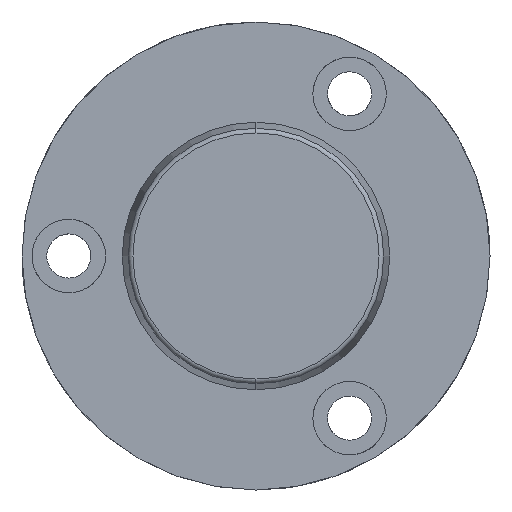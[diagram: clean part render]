
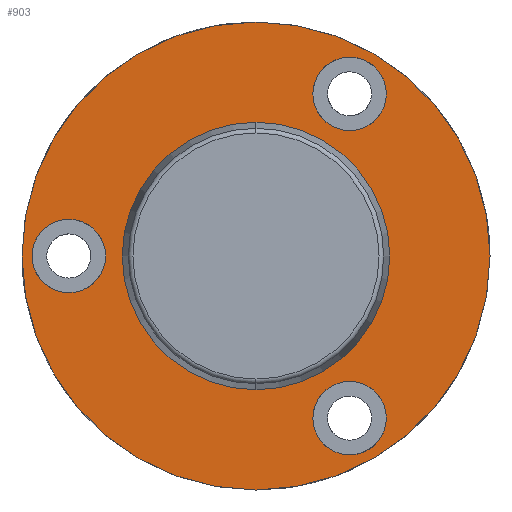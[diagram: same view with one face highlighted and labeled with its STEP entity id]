
A CAD part, left-side view. The second image highlights one B-rep face of the part: STEP entity #903.
In plain terms, the highlighted planar face has unit normal (-1, 0, 0).
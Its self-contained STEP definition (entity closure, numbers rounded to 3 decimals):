
#417=CARTESIAN_POINT('Vertex',(-12.,0.,-35.)) ;
#420=CARTESIAN_POINT('Axis2P3D Location',(-12.,0.,0.)) ;
#424=CARTESIAN_POINT('Vertex',(-12.,35.,0.)) ;
#427=CARTESIAN_POINT('Axis2P3D Location',(-12.,0.,0.)) ;
#431=CARTESIAN_POINT('Vertex',(-12.,0.,35.)) ;
#453=CARTESIAN_POINT('Axis2P3D Location',(-12.,0.,0.)) ;
#457=CARTESIAN_POINT('Vertex',(-12.,-35.,0.)) ;
#460=CARTESIAN_POINT('Axis2P3D Location',(-12.,0.,0.)) ;
#756=CARTESIAN_POINT('Axis2P3D Location',(-12.,18.5,0.)) ;
#767=CARTESIAN_POINT('Axis2P3D Location',(-12.,28.,0.)) ;
#771=CARTESIAN_POINT('Vertex',(-12.,28.,5.5)) ;
#773=CARTESIAN_POINT('Vertex',(-12.,33.5,0.)) ;
#776=CARTESIAN_POINT('Axis2P3D Location',(-12.,28.,0.)) ;
#780=CARTESIAN_POINT('Vertex',(-12.,22.5,0.)) ;
#783=CARTESIAN_POINT('Axis2P3D Location',(-12.,28.,0.)) ;
#787=CARTESIAN_POINT('Vertex',(-12.,28.,-5.5)) ;
#790=CARTESIAN_POINT('Axis2P3D Location',(-12.,28.,0.)) ;
#801=CARTESIAN_POINT('Axis2P3D Location',(-12.,-14.,24.249)) ;
#805=CARTESIAN_POINT('Vertex',(-12.,-8.5,24.249)) ;
#807=CARTESIAN_POINT('Vertex',(-12.,-14.,29.749)) ;
#810=CARTESIAN_POINT('Axis2P3D Location',(-12.,-14.,24.249)) ;
#814=CARTESIAN_POINT('Vertex',(-12.,-19.5,24.249)) ;
#817=CARTESIAN_POINT('Axis2P3D Location',(-12.,-14.,24.249)) ;
#821=CARTESIAN_POINT('Vertex',(-12.,-14.,18.749)) ;
#824=CARTESIAN_POINT('Axis2P3D Location',(-12.,-14.,24.249)) ;
#835=CARTESIAN_POINT('Axis2P3D Location',(-12.,-14.,-24.249)) ;
#839=CARTESIAN_POINT('Vertex',(-12.,-8.5,-24.249)) ;
#841=CARTESIAN_POINT('Vertex',(-12.,-14.,-18.749)) ;
#844=CARTESIAN_POINT('Axis2P3D Location',(-12.,-14.,-24.249)) ;
#848=CARTESIAN_POINT('Vertex',(-12.,-19.5,-24.249)) ;
#851=CARTESIAN_POINT('Axis2P3D Location',(-12.,-14.,-24.249)) ;
#855=CARTESIAN_POINT('Vertex',(-12.,-14.,-29.749)) ;
#858=CARTESIAN_POINT('Axis2P3D Location',(-12.,-14.,-24.249)) ;
#869=CARTESIAN_POINT('Axis2P3D Location',(-12.,0.,0.)) ;
#873=CARTESIAN_POINT('Vertex',(-12.,18.5,0.)) ;
#875=CARTESIAN_POINT('Vertex',(-12.,0.,18.5)) ;
#878=CARTESIAN_POINT('Axis2P3D Location',(-12.,0.,0.)) ;
#882=CARTESIAN_POINT('Vertex',(-12.,-18.5,0.)) ;
#885=CARTESIAN_POINT('Axis2P3D Location',(-12.,0.,0.)) ;
#889=CARTESIAN_POINT('Vertex',(-12.,0.,-18.5)) ;
#892=CARTESIAN_POINT('Axis2P3D Location',(-12.,0.,0.)) ;
#421=DIRECTION('Axis2P3D Direction',(-1.,-0.,-0.)) ;
#428=DIRECTION('Axis2P3D Direction',(-1.,-0.,-0.)) ;
#454=DIRECTION('Axis2P3D Direction',(-1.,-0.,-0.)) ;
#461=DIRECTION('Axis2P3D Direction',(-1.,-0.,-0.)) ;
#757=DIRECTION('Axis2P3D Direction',(1.,0.,-0.)) ;
#758=DIRECTION('Axis2P3D XDirection',(-0.,0.,-1.)) ;
#768=DIRECTION('Axis2P3D Direction',(1.,0.,-0.)) ;
#777=DIRECTION('Axis2P3D Direction',(1.,0.,-0.)) ;
#784=DIRECTION('Axis2P3D Direction',(1.,0.,-0.)) ;
#791=DIRECTION('Axis2P3D Direction',(1.,0.,-0.)) ;
#802=DIRECTION('Axis2P3D Direction',(1.,0.,-0.)) ;
#811=DIRECTION('Axis2P3D Direction',(1.,0.,-0.)) ;
#818=DIRECTION('Axis2P3D Direction',(1.,0.,-0.)) ;
#825=DIRECTION('Axis2P3D Direction',(1.,0.,-0.)) ;
#836=DIRECTION('Axis2P3D Direction',(1.,0.,-0.)) ;
#845=DIRECTION('Axis2P3D Direction',(1.,0.,-0.)) ;
#852=DIRECTION('Axis2P3D Direction',(1.,0.,-0.)) ;
#859=DIRECTION('Axis2P3D Direction',(1.,0.,-0.)) ;
#870=DIRECTION('Axis2P3D Direction',(1.,0.,-0.)) ;
#879=DIRECTION('Axis2P3D Direction',(1.,0.,-0.)) ;
#886=DIRECTION('Axis2P3D Direction',(1.,0.,-0.)) ;
#893=DIRECTION('Axis2P3D Direction',(1.,0.,-0.)) ;
#422=AXIS2_PLACEMENT_3D('Circle Axis2P3D',#420,#421,$) ;
#429=AXIS2_PLACEMENT_3D('Circle Axis2P3D',#427,#428,$) ;
#455=AXIS2_PLACEMENT_3D('Circle Axis2P3D',#453,#454,$) ;
#462=AXIS2_PLACEMENT_3D('Circle Axis2P3D',#460,#461,$) ;
#759=AXIS2_PLACEMENT_3D('Plane Axis2P3D',#756,#757,#758) ;
#769=AXIS2_PLACEMENT_3D('Circle Axis2P3D',#767,#768,$) ;
#778=AXIS2_PLACEMENT_3D('Circle Axis2P3D',#776,#777,$) ;
#785=AXIS2_PLACEMENT_3D('Circle Axis2P3D',#783,#784,$) ;
#792=AXIS2_PLACEMENT_3D('Circle Axis2P3D',#790,#791,$) ;
#803=AXIS2_PLACEMENT_3D('Circle Axis2P3D',#801,#802,$) ;
#812=AXIS2_PLACEMENT_3D('Circle Axis2P3D',#810,#811,$) ;
#819=AXIS2_PLACEMENT_3D('Circle Axis2P3D',#817,#818,$) ;
#826=AXIS2_PLACEMENT_3D('Circle Axis2P3D',#824,#825,$) ;
#837=AXIS2_PLACEMENT_3D('Circle Axis2P3D',#835,#836,$) ;
#846=AXIS2_PLACEMENT_3D('Circle Axis2P3D',#844,#845,$) ;
#853=AXIS2_PLACEMENT_3D('Circle Axis2P3D',#851,#852,$) ;
#860=AXIS2_PLACEMENT_3D('Circle Axis2P3D',#858,#859,$) ;
#871=AXIS2_PLACEMENT_3D('Circle Axis2P3D',#869,#870,$) ;
#880=AXIS2_PLACEMENT_3D('Circle Axis2P3D',#878,#879,$) ;
#887=AXIS2_PLACEMENT_3D('Circle Axis2P3D',#885,#886,$) ;
#894=AXIS2_PLACEMENT_3D('Circle Axis2P3D',#892,#893,$) ;
#762=ORIENTED_EDGE('',*,*,#426,.F.) ;
#763=ORIENTED_EDGE('',*,*,#464,.F.) ;
#764=ORIENTED_EDGE('',*,*,#459,.F.) ;
#765=ORIENTED_EDGE('',*,*,#433,.F.) ;
#796=ORIENTED_EDGE('',*,*,#775,.F.) ;
#797=ORIENTED_EDGE('',*,*,#782,.F.) ;
#798=ORIENTED_EDGE('',*,*,#789,.F.) ;
#799=ORIENTED_EDGE('',*,*,#794,.F.) ;
#830=ORIENTED_EDGE('',*,*,#809,.T.) ;
#831=ORIENTED_EDGE('',*,*,#816,.T.) ;
#832=ORIENTED_EDGE('',*,*,#823,.T.) ;
#833=ORIENTED_EDGE('',*,*,#828,.T.) ;
#864=ORIENTED_EDGE('',*,*,#843,.T.) ;
#865=ORIENTED_EDGE('',*,*,#850,.T.) ;
#866=ORIENTED_EDGE('',*,*,#857,.T.) ;
#867=ORIENTED_EDGE('',*,*,#862,.T.) ;
#898=ORIENTED_EDGE('',*,*,#877,.T.) ;
#899=ORIENTED_EDGE('',*,*,#884,.T.) ;
#900=ORIENTED_EDGE('',*,*,#891,.T.) ;
#901=ORIENTED_EDGE('',*,*,#896,.T.) ;
#800=FACE_BOUND('',#795,.T.) ;
#834=FACE_BOUND('',#829,.T.) ;
#868=FACE_BOUND('',#863,.T.) ;
#902=FACE_BOUND('',#897,.T.) ;
#903=ADVANCED_FACE('721-40x230',(#766,#800,#834,#868,#902),#760,.F.) ;
#423=CIRCLE('generated circle',#422,35.) ;
#430=CIRCLE('generated circle',#429,35.) ;
#456=CIRCLE('generated circle',#455,35.) ;
#463=CIRCLE('generated circle',#462,35.) ;
#770=CIRCLE('generated circle',#769,5.5) ;
#779=CIRCLE('generated circle',#778,5.5) ;
#786=CIRCLE('generated circle',#785,5.5) ;
#793=CIRCLE('generated circle',#792,5.5) ;
#804=CIRCLE('generated circle',#803,5.5) ;
#813=CIRCLE('generated circle',#812,5.5) ;
#820=CIRCLE('generated circle',#819,5.5) ;
#827=CIRCLE('generated circle',#826,5.5) ;
#838=CIRCLE('generated circle',#837,5.5) ;
#847=CIRCLE('generated circle',#846,5.5) ;
#854=CIRCLE('generated circle',#853,5.5) ;
#861=CIRCLE('generated circle',#860,5.5) ;
#872=CIRCLE('generated circle',#871,18.5) ;
#881=CIRCLE('generated circle',#880,18.5) ;
#888=CIRCLE('generated circle',#887,18.5) ;
#895=CIRCLE('generated circle',#894,18.5) ;
#426=EDGE_CURVE('',#418,#425,#423,.F.) ;
#433=EDGE_CURVE('',#425,#432,#430,.F.) ;
#459=EDGE_CURVE('',#432,#458,#456,.F.) ;
#464=EDGE_CURVE('',#458,#418,#463,.F.) ;
#775=EDGE_CURVE('',#772,#774,#770,.F.) ;
#782=EDGE_CURVE('',#781,#772,#779,.F.) ;
#789=EDGE_CURVE('',#788,#781,#786,.F.) ;
#794=EDGE_CURVE('',#774,#788,#793,.F.) ;
#809=EDGE_CURVE('',#806,#808,#804,.T.) ;
#816=EDGE_CURVE('',#808,#815,#813,.T.) ;
#823=EDGE_CURVE('',#815,#822,#820,.T.) ;
#828=EDGE_CURVE('',#822,#806,#827,.T.) ;
#843=EDGE_CURVE('',#840,#842,#838,.T.) ;
#850=EDGE_CURVE('',#842,#849,#847,.T.) ;
#857=EDGE_CURVE('',#849,#856,#854,.T.) ;
#862=EDGE_CURVE('',#856,#840,#861,.T.) ;
#877=EDGE_CURVE('',#874,#876,#872,.T.) ;
#884=EDGE_CURVE('',#876,#883,#881,.T.) ;
#891=EDGE_CURVE('',#883,#890,#888,.T.) ;
#896=EDGE_CURVE('',#890,#874,#895,.T.) ;
#761=EDGE_LOOP('',(#762,#763,#764,#765)) ;
#795=EDGE_LOOP('',(#796,#797,#798,#799)) ;
#829=EDGE_LOOP('',(#830,#831,#832,#833)) ;
#863=EDGE_LOOP('',(#864,#865,#866,#867)) ;
#897=EDGE_LOOP('',(#898,#899,#900,#901)) ;
#766=FACE_OUTER_BOUND('',#761,.T.) ;
#760=PLANE('Plane',#759) ;
#418=VERTEX_POINT('',#417) ;
#425=VERTEX_POINT('',#424) ;
#432=VERTEX_POINT('',#431) ;
#458=VERTEX_POINT('',#457) ;
#772=VERTEX_POINT('',#771) ;
#774=VERTEX_POINT('',#773) ;
#781=VERTEX_POINT('',#780) ;
#788=VERTEX_POINT('',#787) ;
#806=VERTEX_POINT('',#805) ;
#808=VERTEX_POINT('',#807) ;
#815=VERTEX_POINT('',#814) ;
#822=VERTEX_POINT('',#821) ;
#840=VERTEX_POINT('',#839) ;
#842=VERTEX_POINT('',#841) ;
#849=VERTEX_POINT('',#848) ;
#856=VERTEX_POINT('',#855) ;
#874=VERTEX_POINT('',#873) ;
#876=VERTEX_POINT('',#875) ;
#883=VERTEX_POINT('',#882) ;
#890=VERTEX_POINT('',#889) ;
